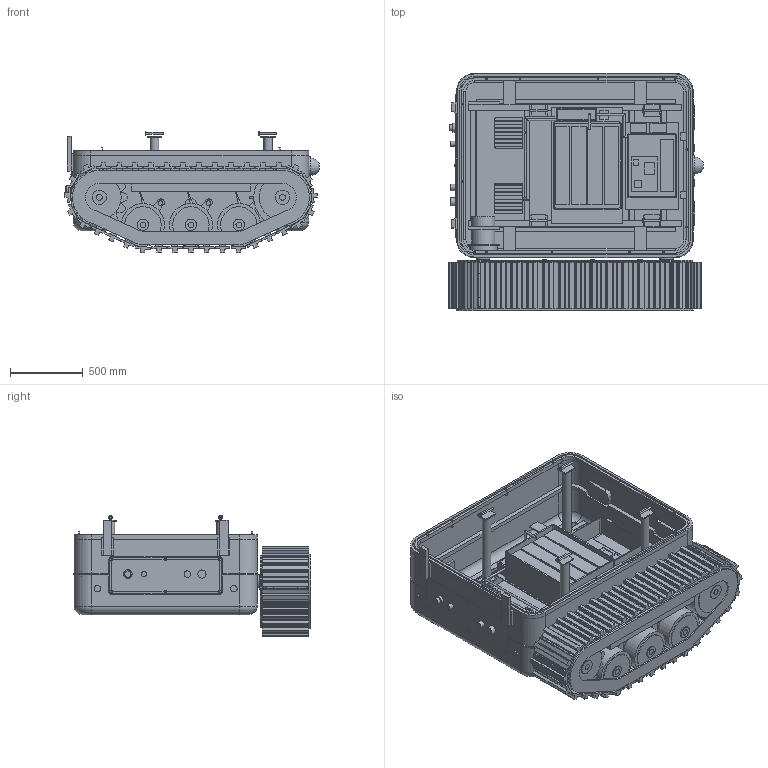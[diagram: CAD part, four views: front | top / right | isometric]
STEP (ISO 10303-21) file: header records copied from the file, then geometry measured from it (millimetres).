
FILE_DESCRIPTION(('Open CASCADE Model'),'2;1');
FILE_NAME('Open CASCADE Shape Model','2026-11-24T20:12:56',('Author'),( 'Open CASCADE'),'Open CASCADE STEP processor 7.9','Open CASCADE 7.9' ,'Unknown');
FILE_SCHEMA(('AUTOMOTIVE_DESIGN { 1 0 10303 214 1 1 1 1 }'));
Length unit declared in the file: centimetre
Products named in the file (182): AKORA_C04_INTERNALS_VISIBLE; 01_MAIN_BODY; BODY_LOWER; BODY_LOWER_TUB; BODY_JOINT_FLANGE_INNER; BODY_UPPER; BODY_UPPER_TUB; BODY_JOINT_BEAD; COVER_GASKET; COVER_GASKET_EPDM_10x8; SERVICE_PANEL_REAR_GASKET; COVER_INTERLOCK; COVER_SEAT_RING_FEMALE; COVER_LOCKS; COVER_RECEPTACLE_01; COVER_RECEPTACLE_02; COVER_RECEPTACLE_03; COVER_RECEPTACLE_04; COVER_RECEPTACLE_05; COVER_RECEPTACLE_06; COVER_RECEPTACLE_07; COVER_RECEPTACLE_08; COVER_RECEPTACLE_09; COVER_RECEPTACLE_10; INTERNAL_FRAME; FRAME_RAIL_L; FRAME_RAIL_R; FRAME_CROSS_1; FRAME_CROSS_2; FRAME_CROSS_3; FRAME_CROSS_4; FRAME_CROSS_5; TRACK_MOTOR_PLATE_L; TRACK_MOTOR_PLATE_R; MOUNTING_BRACKETS; FRAME_WALL_BRACKET_L_400; FRAME_WALL_BRACKET_L_1300; FRAME_WALL_BRACKET_R_400; FRAME_WALL_BRACKET_R_1300; P1_PEDESTAL_600_L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
Assembly tree (215 placements, depth 5):
  AKORA_C04_INTERNALS_VISIBLE
    01_MAIN_BODY
      BODY_LOWER
        BODY_LOWER_TUB
        BODY_JOINT_FLANGE_INNER
      BODY_UPPER
        BODY_UPPER_TUB
        BODY_JOINT_BEAD
      COVER_GASKET
        COVER_GASKET_EPDM_10x8
        SERVICE_PANEL_REAR_GASKET
      COVER_INTERLOCK
        COVER_SEAT_RING_FEMALE
      COVER_LOCKS
        COVER_RECEPTACLE_01
        COVER_RECEPTACLE_02
        COVER_RECEPTACLE_03
        COVER_RECEPTACLE_04
        COVER_RECEPTACLE_05
        COVER_RECEPTACLE_06
        COVER_RECEPTACLE_07
        COVER_RECEPTACLE_08
        COVER_RECEPTACLE_09
        COVER_RECEPTACLE_10
      INTERNAL_FRAME
        FRAME_RAIL_L
        FRAME_RAIL_R
        FRAME_CROSS_1
        FRAME_CROSS_2
        FRAME_CROSS_3
        FRAME_CROSS_4
        FRAME_CROSS_5
        TRACK_MOTOR_PLATE_L
        TRACK_MOTOR_PLATE_R
      MOUNTING_BRACKETS
        FRAME_WALL_BRACKET_L_400
        FRAME_WALL_BRACKET_L_1300
        FRAME_WALL_BRACKET_R_400
        FRAME_WALL_BRACKET_R_1300
        P1_PEDESTAL_600_L
        P1_PEDESTAL_600_R
        P1_PEDESTAL_1380_L
        P1_PEDESTAL_1380_R
        REAR_LANDING_BRACKET_L
        REAR_LANDING_BRACKET_R
      SERVICE_PANELS
        SERVICE_PANEL_REAR
    02_TRACK_SYSTEM
      RIGHT_TRACK
        RIGHT_TRACK_BEARINGS
          FLANGED_BEARING_1_R
          FLANGED_BEARING_2_R
          WHEEL_BEARING_1_R
          WHEEL_BEARING_2_R
          WHEEL_BEARING_3_R
          WHEEL_BEARING_4_R
          WHEEL_BEARING_5_R
        RIGHT_TRACK_DRIVE_SPROCKETS
          DRIVE_SPROCKET_R
          DRIVE_SPROCKET_HUB_CAP_R
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Bounding box: 1754.89 x 1631 x 834.76 mm (x, y, z)
Volume: 297417419.5 mm3; surface area: 33026350.8 mm2
Topology: 188 solids, 192 shells, 2605 faces, 6276 edges, 4182 vertices
Faces by surface type: plane 1779, cylinder 808, torus 8, sphere 8, revolution 2
Full cylindrical faces by diameter (mm): 8 x15, 9 x10, 9.2 x10, 10 x12, 12 x6, 13 x4, 14 x2, 16 x19, 20 x12, 24 x3, 28 x8, 30 x2, 32 x9, 36 x2, 40 x36, 44 x11, 48 x4, 56 x2, 60 x5, 72 x10, 76 x4, 80 x3, 90 x6, 100 x2, 140 x1, 160 x3, 190 x1, 200 x3, 250 x3, 280 x1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
Entity records: 102413 total; most frequent: CARTESIAN_POINT 18756, DIRECTION 15329, LINE 9341, VECTOR 9341, ORIENTED_EDGE 7630, PCURVE 7630, DEFINITIONAL_REPRESENTATION 7630, EDGE_CURVE 3815
